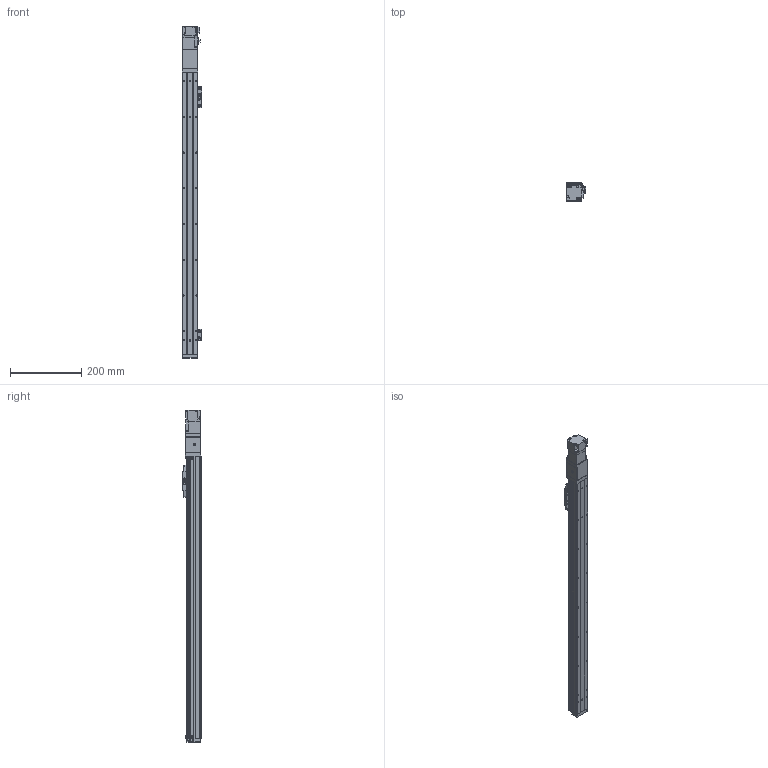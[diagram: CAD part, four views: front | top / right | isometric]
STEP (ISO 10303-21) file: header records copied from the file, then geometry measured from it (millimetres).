
FILE_DESCRIPTION (( 'STEP AP203' ), '1' );
FILE_NAME ('GTH4-650-BC-M05-C4.step', '2023-08-28T00:39:49', ( '微软用户' ), ( '微软中国' ), 'SwSTEP 2.0', 'SolidWorks 2020', '' );
FILE_SCHEMA (( 'CONFIG_CONTROL_DESIGN' ));
Length unit declared in the file: millimetre
Products named in the file (19): GBT70.1-2000 M3×16; GBT 70.1-M2.5×6; GTH4-650-BC-M05-C4; BTH50-028; BTH40-004; BTH50-023; BTH40-013; BTH40-001-50_BTH40-001-650; BTH50-024; HG-KR13; BTH40-003; GBT 70.1-M3℅6; GBT 70.3-M3℅6; BTH40-006; GBT96.1-2002 3×0.8; BTH40-017_笢俶; BTH-M3X5X6; BTH40-022; BTH40-005-1
Assembly tree (49 placements, depth 2):
  GTH4-650-BC-M05-C4
    BTH40-001-50_BTH40-001-650
    BTH40-003
    BTH40-006
    BTH-M3X5X6  x10
    GBT70.1-2000 M3×16  x4
    BTH50-028  x2
    BTH50-023  x3
    BTH50-024  x3
    GBT 70.1-M3℅6  x6
    GBT96.1-2002 3×0.8  x6
    BTH40-022
    GBT 70.1-M2.5×6  x2
    BTH40-004
    BTH40-013
    HG-KR13
    GBT 70.3-M3℅6  x4
    BTH40-017_笢俶
    BTH40-005-1
Bounding box: 55.2 x 52 x 929.4 mm (x, y, z)
Volume: 1433999.6 mm3; surface area: 256683.6 mm2
Topology: 51 solids, 51 shells, 1872 faces, 4398 edges, 2718 vertices
Faces by surface type: plane 1026, cylinder 473, cone 237, torus 132, sphere 4
Entity records: 34588 total; most frequent: DIRECTION 5601, CARTESIAN_POINT 5595, ORIENTED_EDGE 5258, EDGE_CURVE 2629, AXIS2_PLACEMENT_3D 1887, LINE 1827, VECTOR 1827, VERTEX_POINT 1649
